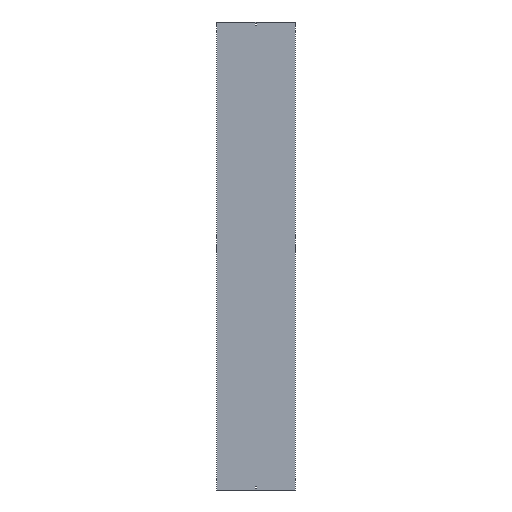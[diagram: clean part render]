
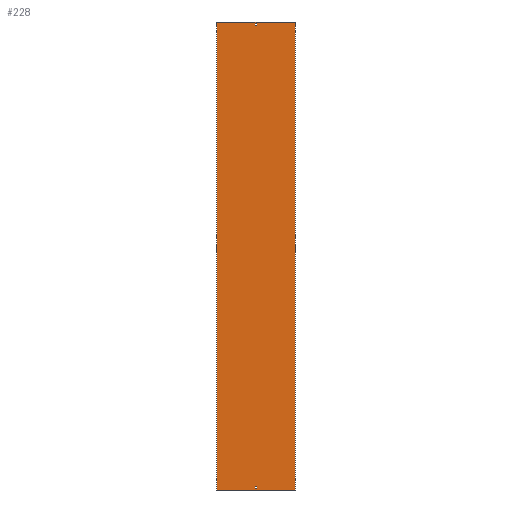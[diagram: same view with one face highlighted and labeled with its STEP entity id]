
A CAD part, front view. The second image highlights one B-rep face of the part: STEP entity #228.
In plain terms, the highlighted planar face has unit normal (0, -1, 0).
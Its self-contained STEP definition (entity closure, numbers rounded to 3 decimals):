
#1 = CARTESIAN_POINT ( 'NONE',  ( -252., 0., 1500. ) ) ;
#3 = EDGE_CURVE ( 'NONE', #1377, #2565, #2443, .T. ) ;
#31 = CARTESIAN_POINT ( 'NONE',  ( 3.25, 0., -1488. ) ) ;
#110 = EDGE_CURVE ( 'NONE', #858, #891, #1644, .T. ) ;
#213 = VERTEX_POINT ( 'NONE', #1737 ) ;
#228 = ADVANCED_FACE ( 'NONE', ( #1695, #2123, #2551 ), #453, .F. ) ;
#261 = EDGE_CURVE ( 'NONE', #2355, #2398, #2238, .T. ) ;
#278 = EDGE_CURVE ( 'NONE', #213, #2355, #1372, .T. ) ;
#279 = CARTESIAN_POINT ( 'NONE',  ( -3.25, 0., 1479. ) ) ;
#295 = CARTESIAN_POINT ( 'NONE',  ( -3.25, 0., 1479. ) ) ;
#306 = DIRECTION ( 'NONE',  ( 0., 0., 1. ) ) ;
#321 = DIRECTION ( 'NONE',  ( 1., 0., 0. ) ) ;
#351 = ORIENTED_EDGE ( 'NONE', *, *, #1454, .F. ) ;
#354 = CARTESIAN_POINT ( 'NONE',  ( -252., 0., 1500. ) ) ;
#419 = VECTOR ( 'NONE', #321, 1000. ) ;
#453 = PLANE ( 'NONE',  #1069 ) ;
#500 = EDGE_CURVE ( 'NONE', #858, #798, #1946, .T. ) ;
#513 = EDGE_CURVE ( 'NONE', #891, #1829, #1958, .T. ) ;
#514 = LINE ( 'NONE', #295, #995 ) ;
#526 = ORIENTED_EDGE ( 'NONE', *, *, #1868, .T. ) ;
#601 = CARTESIAN_POINT ( 'NONE',  ( 3.25, 0., 1479. ) ) ;
#634 = DIRECTION ( 'NONE',  ( -1., 0., 0. ) ) ;
#662 = CARTESIAN_POINT ( 'NONE',  ( -3.25, 0., 1488. ) ) ;
#688 = CARTESIAN_POINT ( 'NONE',  ( 3.25, 0., 1488. ) ) ;
#722 = DIRECTION ( 'NONE',  ( 1., 0., 0. ) ) ;
#730 = LINE ( 'NONE', #1340, #1887 ) ;
#798 = VERTEX_POINT ( 'NONE', #1665 ) ;
#858 = VERTEX_POINT ( 'NONE', #1 ) ;
#880 = CARTESIAN_POINT ( 'NONE',  ( -252., 0., 1500. ) ) ;
#890 = CARTESIAN_POINT ( 'NONE',  ( -252., 0., -1500. ) ) ;
#891 = VERTEX_POINT ( 'NONE', #1095 ) ;
#899 = DIRECTION ( 'NONE',  ( 0., 0., -1. ) ) ;
#933 = CARTESIAN_POINT ( 'NONE',  ( 252., 0., 1500. ) ) ;
#964 = ORIENTED_EDGE ( 'NONE', *, *, #3, .F. ) ;
#995 = VECTOR ( 'NONE', #1163, 1000. ) ;
#1014 = CARTESIAN_POINT ( 'NONE',  ( -3.25, 0., -1488. ) ) ;
#1069 = AXIS2_PLACEMENT_3D ( 'NONE', #2151, #1301, #634 ) ;
#1088 = DIRECTION ( 'NONE',  ( 0., 0., -1. ) ) ;
#1095 = CARTESIAN_POINT ( 'NONE',  ( 252., 0., 1500. ) ) ;
#1132 = CARTESIAN_POINT ( 'NONE',  ( -3.25, 0., 1488. ) ) ;
#1158 = EDGE_CURVE ( 'NONE', #1189, #1377, #2506, .T. ) ;
#1163 = DIRECTION ( 'NONE',  ( 1., 0., 0. ) ) ;
#1164 = VECTOR ( 'NONE', #1885, 1000. ) ;
#1189 = VERTEX_POINT ( 'NONE', #601 ) ;
#1206 = VECTOR ( 'NONE', #1992, 1000. ) ;
#1260 = VECTOR ( 'NONE', #899, 1000. ) ;
#1275 = EDGE_LOOP ( 'NONE', ( #2364, #2282, #2677, #2050 ) ) ;
#1288 = VERTEX_POINT ( 'NONE', #279 ) ;
#1296 = VECTOR ( 'NONE', #306, 1000. ) ;
#1301 = DIRECTION ( 'NONE',  ( 0., 1., 0. ) ) ;
#1334 = ORIENTED_EDGE ( 'NONE', *, *, #261, .T. ) ;
#1336 = VECTOR ( 'NONE', #1430, 1000. ) ;
#1340 = CARTESIAN_POINT ( 'NONE',  ( -3.25, 0., 1488. ) ) ;
#1358 = DIRECTION ( 'NONE',  ( -1., 0., 0. ) ) ;
#1372 = LINE ( 'NONE', #2209, #1654 ) ;
#1373 = CARTESIAN_POINT ( 'NONE',  ( -3.25, 0., -1479. ) ) ;
#1377 = VERTEX_POINT ( 'NONE', #688 ) ;
#1396 = ORIENTED_EDGE ( 'NONE', *, *, #1834, .F. ) ;
#1415 = EDGE_LOOP ( 'NONE', ( #1334, #526, #2716, #2738 ) ) ;
#1430 = DIRECTION ( 'NONE',  ( 1., 0., 0. ) ) ;
#1454 = EDGE_CURVE ( 'NONE', #1288, #1189, #514, .T. ) ;
#1526 = VECTOR ( 'NONE', #722, 1000. ) ;
#1582 = CARTESIAN_POINT ( 'NONE',  ( -3.25, 0., -1488. ) ) ;
#1583 = LINE ( 'NONE', #1373, #419 ) ;
#1644 = LINE ( 'NONE', #354, #1336 ) ;
#1654 = VECTOR ( 'NONE', #1358, 1000. ) ;
#1659 = VECTOR ( 'NONE', #1088, 1000. ) ;
#1665 = CARTESIAN_POINT ( 'NONE',  ( -252., 0., -1500. ) ) ;
#1686 = CARTESIAN_POINT ( 'NONE',  ( 3.25, 0., 1488. ) ) ;
#1695 = FACE_OUTER_BOUND ( 'NONE', #1275, .T. ) ;
#1720 = CARTESIAN_POINT ( 'NONE',  ( -3.25, 0., -1479. ) ) ;
#1737 = CARTESIAN_POINT ( 'NONE',  ( 3.25, 0., -1488. ) ) ;
#1829 = VERTEX_POINT ( 'NONE', #2442 ) ;
#1834 = EDGE_CURVE ( 'NONE', #2565, #1288, #730, .T. ) ;
#1868 = EDGE_CURVE ( 'NONE', #2398, #2158, #1583, .T. ) ;
#1882 = VECTOR ( 'NONE', #2421, 1000. ) ;
#1885 = DIRECTION ( 'NONE',  ( 0., 0., 1. ) ) ;
#1887 = VECTOR ( 'NONE', #2409, 1000. ) ;
#1946 = LINE ( 'NONE', #880, #1659 ) ;
#1958 = LINE ( 'NONE', #933, #1882 ) ;
#1968 = CARTESIAN_POINT ( 'NONE',  ( 3.25, 0., -1479. ) ) ;
#1992 = DIRECTION ( 'NONE',  ( -1., 0., 0. ) ) ;
#2017 = EDGE_LOOP ( 'NONE', ( #351, #1396, #964, #2648 ) ) ;
#2050 = ORIENTED_EDGE ( 'NONE', *, *, #500, .T. ) ;
#2103 = EDGE_CURVE ( 'NONE', #798, #1829, #2417, .T. ) ;
#2123 = FACE_BOUND ( 'NONE', #2017, .T. ) ;
#2151 = CARTESIAN_POINT ( 'NONE',  ( -252., 0., 1500. ) ) ;
#2158 = VERTEX_POINT ( 'NONE', #1968 ) ;
#2209 = CARTESIAN_POINT ( 'NONE',  ( -3.25, 0., -1488. ) ) ;
#2215 = LINE ( 'NONE', #31, #1260 ) ;
#2238 = LINE ( 'NONE', #1582, #1296 ) ;
#2282 = ORIENTED_EDGE ( 'NONE', *, *, #513, .F. ) ;
#2355 = VERTEX_POINT ( 'NONE', #1014 ) ;
#2364 = ORIENTED_EDGE ( 'NONE', *, *, #2103, .T. ) ;
#2398 = VERTEX_POINT ( 'NONE', #1720 ) ;
#2409 = DIRECTION ( 'NONE',  ( 0., 0., -1. ) ) ;
#2417 = LINE ( 'NONE', #890, #1526 ) ;
#2421 = DIRECTION ( 'NONE',  ( 0., 0., -1. ) ) ;
#2442 = CARTESIAN_POINT ( 'NONE',  ( 252., 0., -1500. ) ) ;
#2443 = LINE ( 'NONE', #1132, #1206 ) ;
#2506 = LINE ( 'NONE', #1686, #1164 ) ;
#2534 = EDGE_CURVE ( 'NONE', #2158, #213, #2215, .T. ) ;
#2551 = FACE_BOUND ( 'NONE', #1415, .T. ) ;
#2565 = VERTEX_POINT ( 'NONE', #662 ) ;
#2648 = ORIENTED_EDGE ( 'NONE', *, *, #1158, .F. ) ;
#2677 = ORIENTED_EDGE ( 'NONE', *, *, #110, .F. ) ;
#2716 = ORIENTED_EDGE ( 'NONE', *, *, #2534, .T. ) ;
#2738 = ORIENTED_EDGE ( 'NONE', *, *, #278, .T. ) ;
